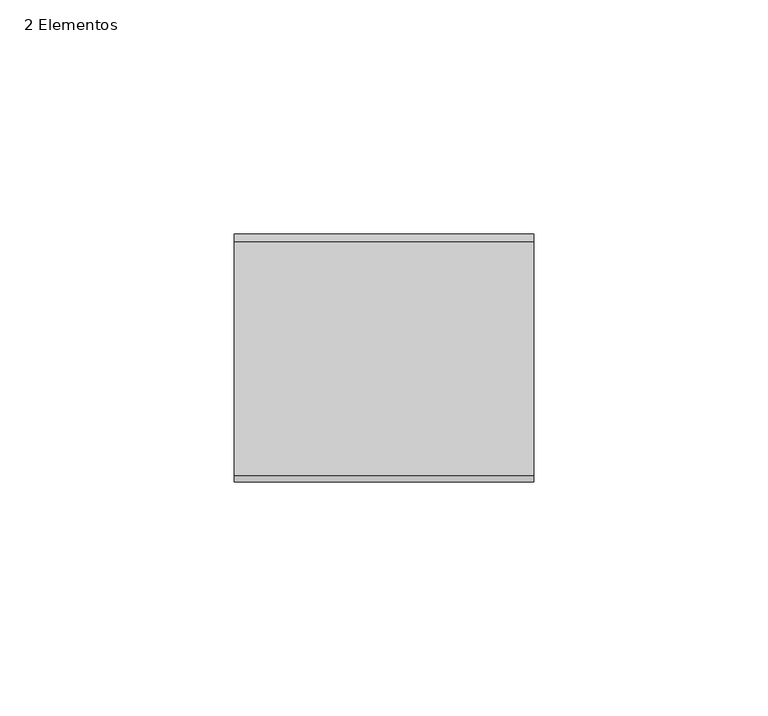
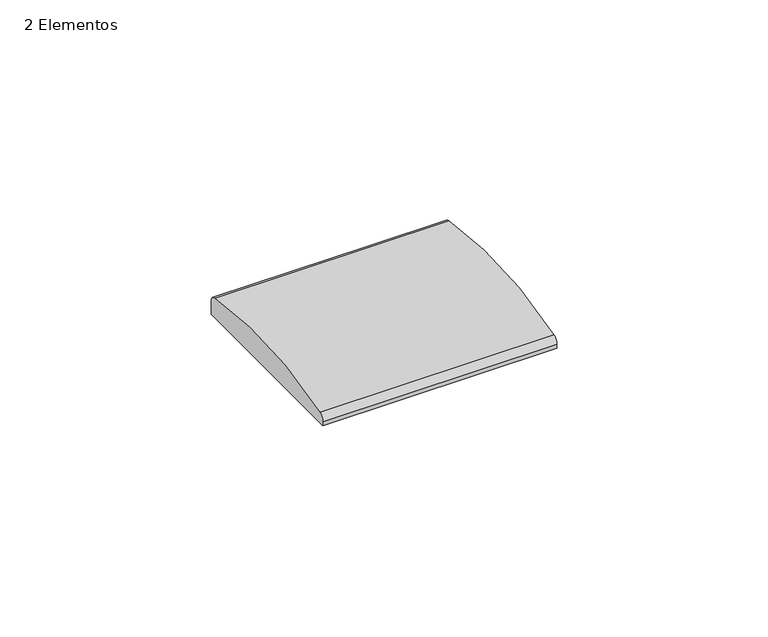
"""IFC4 building model written with IfcOpenShell, lengths in millimetres: proxy geometry, Iris_AceroNeptuno_Conmutador : 2 Elementos."""

from ifc_helpers import new_model, si_unit, point, frame, frame_2d, origin, place, context, project, spatial, polyline, circle_curve, trimmed, segment, composite_curve, outline, extrude, source, transform, mapped, element, save


def proxy_2_elementos_08368da2(model_context):
    return source(origin(), model_context, "Body", "SweptSolid", [
        extrude(outline(composite_curve([segment(polyline([(26.5, 3.5), (-26.5, 3.5), (-26.5, 4.5647581)]), True, "CONTINUOUS"), segment(trimmed(circle_curve(frame_2d((-24.5, 4.5647581)), 2.0), [point((-26.5, 4.5647581))], [point((-25.0778387, 6.479465))], False, "CARTESIAN"), True, "CONTINUOUS"), segment(trimmed(circle_curve(frame_2d((5.5476114, -95.0)), 106.0), [point((-25.0778387, 6.479465))], [point((24.864469, 9.2250402))], False, "CARTESIAN"), True, "CONTINUOUS"), segment(trimmed(circle_curve(frame_2d((24.5, 7.25853)), 2.0), [point((24.864469, 9.2250402))], [point((26.5, 7.25853))], False, "CARTESIAN"), True, "CONTINUOUS"), segment(polyline([(26.5, 7.25853), (26.5, 3.5)]), True, "CONTINUOUS")], self_intersect=False)), frame((-32.0, 0.0, 0.0), z_axis=(1.0, 0.0, 0.0), x_axis=(0.0, 1.0, 0.0)), (0.0, 0.0, 1.0), 64.0),
    ])


if __name__ == "__main__":
    model = new_model("IFC4")
    model_context = context("Model", 3, world=origin())
    ifc_project = project(units=[si_unit("LENGTHUNIT", "METRE", prefix="MILLI")], contexts=[model_context])
    site = spatial("IfcSite", under=ifc_project)
    building = spatial("IfcBuilding", under=site)
    placement = place(None, origin())
    proxy_2_elementos_shape = proxy_2_elementos_08368da2(model_context)
    element("IfcBuildingElementProxy", 1, Name="Iris_AceroNeptuno_Conmutador : 2 Elementos", ObjectType="Iris_AceroNeptuno_Conmutador : 2 Elementos", at=placement, inside=building, context=model_context, shape_type="MappedRepresentation", body=[
        mapped(proxy_2_elementos_shape, transform((0.0, 0.0, 0.0), x_axis=(1.0, 0.0, 0.0), y_axis=(0.0, 1.0, 0.0), z_axis=(0.0, 0.0, 1.0))),
    ])
    save(model, "model.ifc")
